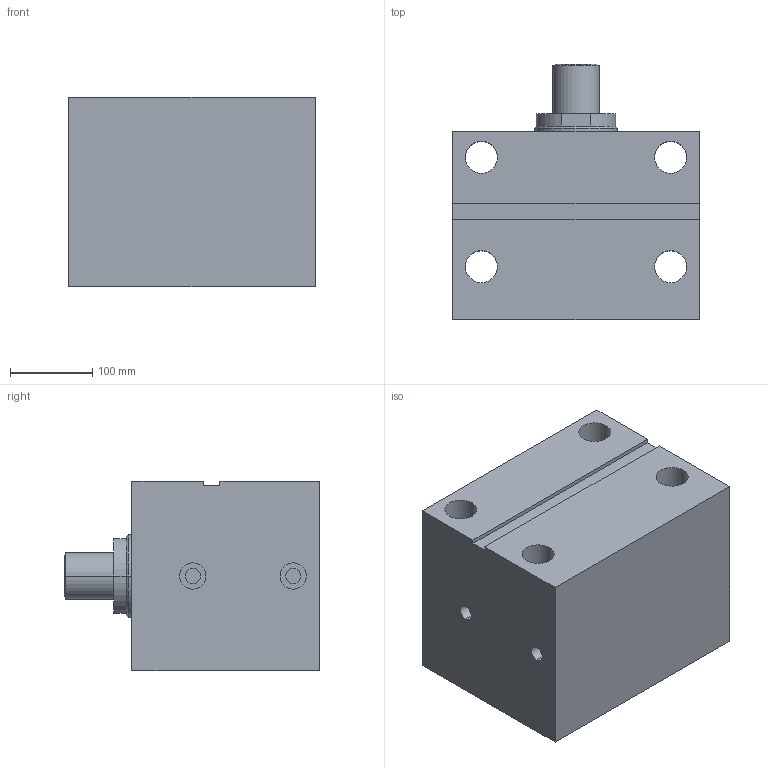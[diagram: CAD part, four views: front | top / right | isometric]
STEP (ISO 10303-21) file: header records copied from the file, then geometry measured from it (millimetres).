
FILE_DESCRIPTION (( 'STEP AP203' ), '1' );
FILE_NAME ('GERMA_Blockzylinder_601-160-100-A.STEP', '2016-04-06T16:13:54', ( '' ), ( '' ), 'SwSTEP 2.0', 'SolidWorks 2015', '' );
FILE_SCHEMA (( 'CONFIG_CONTROL_DESIGN' ));
Length unit declared in the file: millimetre
Products named in the file (3): GH-600-160_GH-601-160-100; Kolben 60x-160_Kolben DU.160-Hub100-AG; GERMA_Blockzylinder_601-160-100-A
Assembly tree (2 placements, depth 2):
  GERMA_Blockzylinder_601-160-100-A
    GH-600-160_GH-601-160-100
    Kolben 60x-160_Kolben DU.160-Hub100-AG
Bounding box: 300 x 310 x 230 mm (x, y, z)
Volume: 13673508.7 mm3; surface area: 727142.4 mm2
Topology: 2 solids, 2 shells, 73 faces, 162 edges, 101 vertices
Faces by surface type: cylinder 35, plane 26, cone 12
Entity records: 2330 total; most frequent: DIRECTION 395, CARTESIAN_POINT 337, ORIENTED_EDGE 316, AXIS2_PLACEMENT_3D 159, EDGE_CURVE 158, VERTEX_POINT 101, EDGE_LOOP 93, CIRCLE 81
